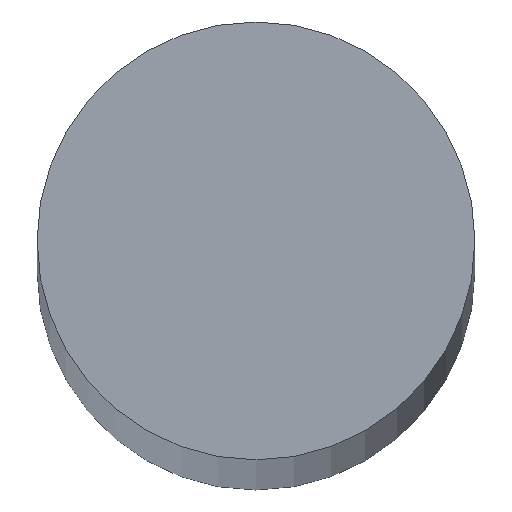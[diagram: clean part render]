
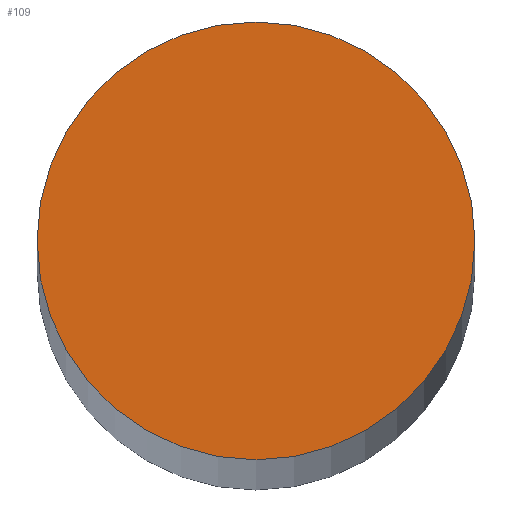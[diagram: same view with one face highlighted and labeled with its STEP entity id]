
A CAD part, top view. The second image highlights one B-rep face of the part: STEP entity #109.
In plain terms, the highlighted planar face has unit normal (0, 0, 1).
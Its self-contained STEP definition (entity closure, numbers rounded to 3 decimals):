
#24 = VERTEX_POINT('',#25);
#25 = CARTESIAN_POINT('',(1.5,0.,118.533));
#32 = CYLINDRICAL_SURFACE('',#33,1.5);
#33 = AXIS2_PLACEMENT_3D('',#34,#35,#36);
#34 = CARTESIAN_POINT('',(0.,0.,0.));
#35 = DIRECTION('',(-0.,-0.,-1.));
#36 = DIRECTION('',(1.,0.,-0.));
#51 = EDGE_CURVE('',#24,#24,#52,.T.);
#52 = SURFACE_CURVE('',#53,(#58,#65),.PCURVE_S1.);
#53 = CIRCLE('',#54,1.5);
#54 = AXIS2_PLACEMENT_3D('',#55,#56,#57);
#55 = CARTESIAN_POINT('',(0.,0.,118.533));
#56 = DIRECTION('',(0.,0.,1.));
#57 = DIRECTION('',(1.,0.,-0.));
#58 = PCURVE('',#32,#59);
#59 = DEFINITIONAL_REPRESENTATION('',(#60),#64);
#60 = LINE('',#61,#62);
#61 = CARTESIAN_POINT('',(-0.,-118.533));
#62 = VECTOR('',#63,1.);
#63 = DIRECTION('',(-1.,0.));
#64 = ( GEOMETRIC_REPRESENTATION_CONTEXT(2) 
PARAMETRIC_REPRESENTATION_CONTEXT() REPRESENTATION_CONTEXT('2D SPACE',''
  ) );
#65 = PCURVE('',#66,#71);
#66 = PLANE('',#67);
#67 = AXIS2_PLACEMENT_3D('',#68,#69,#70);
#68 = CARTESIAN_POINT('',(0.,0.,
    118.533));
#69 = DIRECTION('',(0.,0.,1.));
#70 = DIRECTION('',(1.,0.,-0.));
#71 = DEFINITIONAL_REPRESENTATION('',(#72),#76);
#72 = CIRCLE('',#73,1.5);
#73 = AXIS2_PLACEMENT_2D('',#74,#75);
#74 = CARTESIAN_POINT('',(0.,0.));
#75 = DIRECTION('',(1.,0.));
#76 = ( GEOMETRIC_REPRESENTATION_CONTEXT(2) 
PARAMETRIC_REPRESENTATION_CONTEXT() REPRESENTATION_CONTEXT('2D SPACE',''
  ) );
#109 = ADVANCED_FACE('',(#110),#66,.T.);
#110 = FACE_BOUND('',#111,.T.);
#111 = EDGE_LOOP('',(#112));
#112 = ORIENTED_EDGE('',*,*,#51,.T.);
